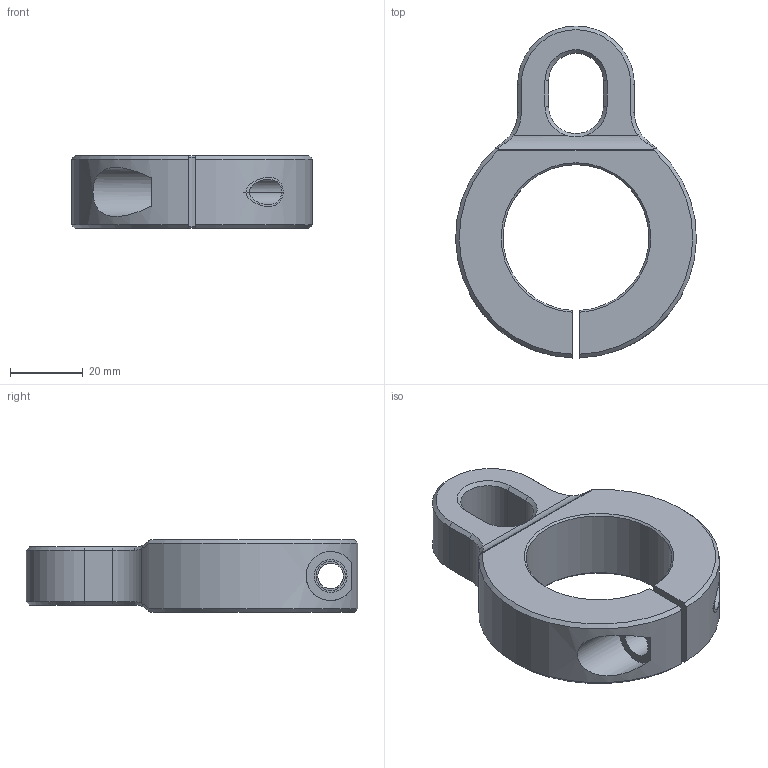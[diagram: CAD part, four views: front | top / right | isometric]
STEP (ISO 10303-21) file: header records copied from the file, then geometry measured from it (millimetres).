
FILE_DESCRIPTION((''),'2;1');
FILE_NAME('6155710740','2008-04-23T',('sdanet'),(''),'PRO/ENGINEER BY PARAMETRIC TECHNOLOGY CORPORATION, 2007310','PRO/ENGINEER BY PARAMETRIC TECHNOLOGY CORPORATION, 2007310','');
FILE_SCHEMA(('AUTOMOTIVE_DESIGN_CC2 { 1 2 10303 214 -1 1 5 2 }'));
Length unit declared in the file: millimetre
Products named in the file (1): 6155710740
Bounding box: 65.99 x 90.98 x 20 mm (x, y, z)
Volume: 46160.2 mm3; surface area: 14623.8 mm2
Topology: 1 solids, 2 shells, 66 faces, 167 edges, 102 vertices
Faces by surface type: plane 21, cone 18, cylinder 17, bspline 10
Entity records: 2926 total; most frequent: CARTESIAN_POINT 849, ORIENTED_EDGE 330, DIRECTION 281, PRESENTATION_STYLE_ASSIGNMENT 169, STYLED_ITEM 169, CURVE_STYLE 167, EDGE_CURVE 167, AXIS2_PLACEMENT_3D 102
